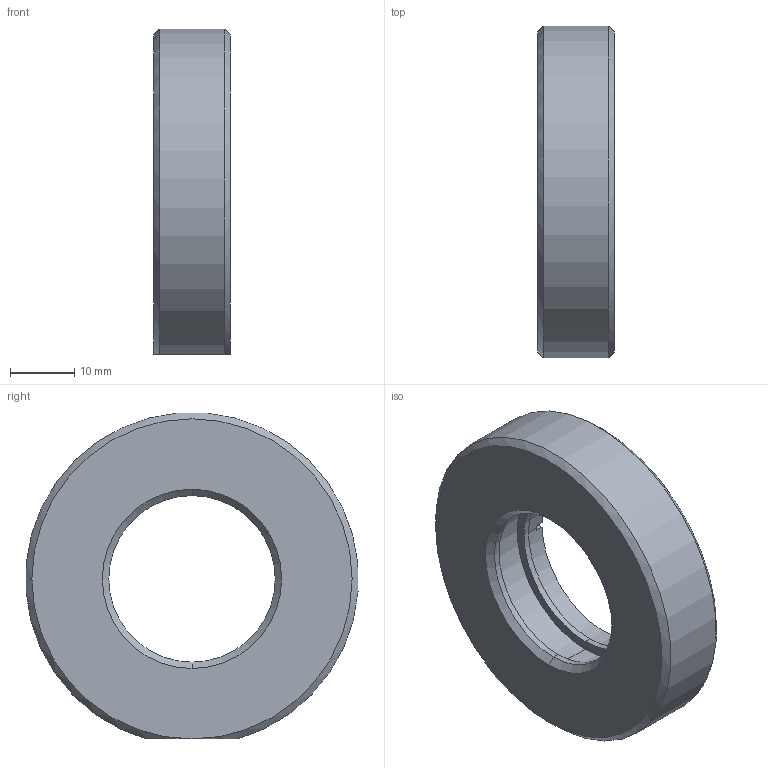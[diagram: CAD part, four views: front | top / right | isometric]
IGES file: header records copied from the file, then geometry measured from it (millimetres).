
Global section: file name: No Iges File Name specified; native system: AutoDesk Inventor R11.0; preprocessor: AutoDesk Inventor Iges Exporter R11.0; author: No Author specified; organization: No Organization specified; date: 20070913.093313; units: millimetre
Bounding box: 12 x 51.84 x 50.9 mm (x, y, z)
Volume: 17515.7 mm3; surface area: 6340.5 mm2
Topology: 1 solids, 1 shells, 54 faces, 128 edges, 78 vertices
Faces by surface type: bspline 24, plane 18, revolution 7, cone 4, cylinder 1
